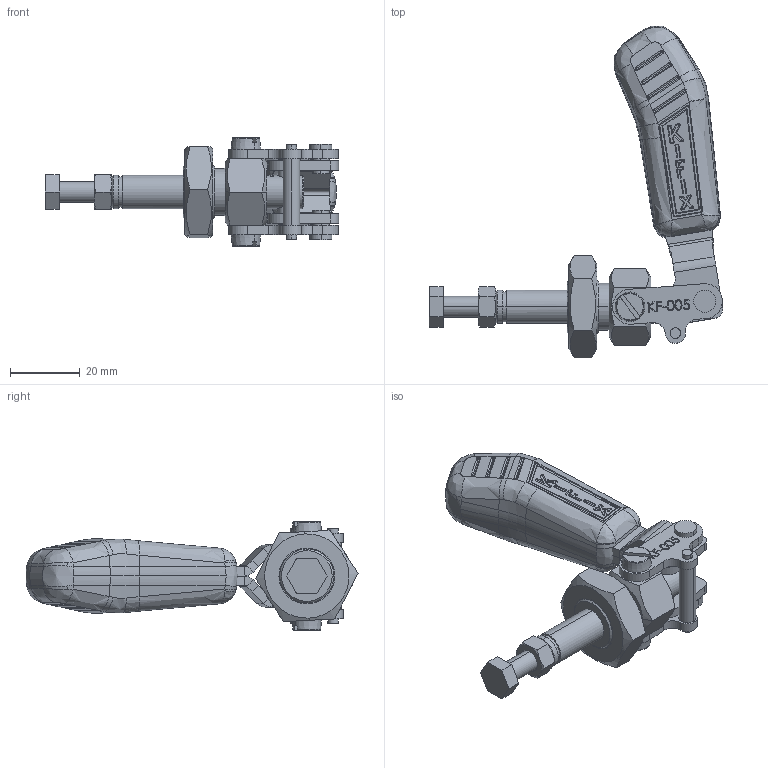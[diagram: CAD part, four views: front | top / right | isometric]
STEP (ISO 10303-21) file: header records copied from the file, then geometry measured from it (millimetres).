
FILE_DESCRIPTION (( 'STEP AP203' ), '1' );
FILE_NAME ('KF-005.STEP', '2021-03-05T19:56:02', ( '' ), ( '' ), 'SwSTEP 2.0', 'SolidWorks 2021', '' );
FILE_SCHEMA (( 'CONFIG_CONTROL_DESIGN' ));
Length unit declared in the file: millimetre
Products named in the file (16): 02.20002; PP-M6; 12.50019; 16.20025; 06.50024; 07.60005; 08.10064; 01.10144_Esquerda; 01.10144_Direita; 11.50001; 11.20002; 12.50009; KF-005; 03.20016; 16.20024
Assembly tree (17 placements, depth 3):
  KF-005
    02.20002
    03.20016
    01.10144_Direita
    01.10144_Esquerda
    08.10064
    08.10064
    11.20002
    06.50024  x2
    16.20024
    16.20025
    12.50009  x2
    07.60005
    PP-M6
      12.50019
      11.50001
Bounding box: 83.96 x 95.05 x 30.95 mm (x, y, z)
Volume: 36875.8 mm3; surface area: 23961.6 mm2
Topology: 20 solids, 20 shells, 1110 faces, 2869 edges, 1820 vertices
Faces by surface type: plane 360, bspline 346, cylinder 287, cone 61, sphere 50, torus 6
Entity records: 46476 total; most frequent: CARTESIAN_POINT 21465, ORIENTED_EDGE 5618, DIRECTION 3747, EDGE_CURVE 2809, VERTEX_POINT 1787, AXIS2_PLACEMENT_3D 1323, EDGE_LOOP 1166, LINE 1101
